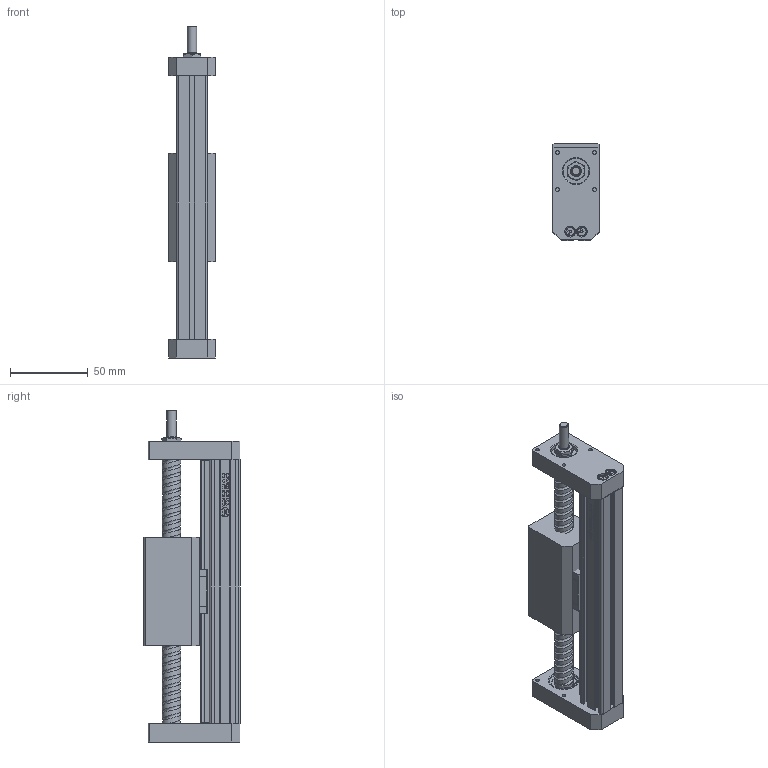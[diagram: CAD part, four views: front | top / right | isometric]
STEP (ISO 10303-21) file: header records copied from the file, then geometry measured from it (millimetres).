
FILE_DESCRIPTION (( 'STEP AP214' ), '1' );
FILE_NAME ('WMAB-020-0100 (3D).STEP', '2025-12-23T07:50:28', ( '' ), ( '' ), 'SwSTEP 2.0', 'SolidWorks 2023', '' );
FILE_SCHEMA (( 'AUTOMOTIVE_DESIGN' ));
Length unit declared in the file: millimetre
Products named in the file (3): Group2^WMAB-020-0100 (3D); WMAB-020-0100 (3D); Group1^WMAB-020-0100 (3D)
Assembly tree (2 placements, depth 2):
  WMAB-020-0100 (3D)
    Group1^WMAB-020-0100 (3D)
    Group2^WMAB-020-0100 (3D)
Bounding box: 30 x 62.5 x 214 mm (x, y, z)
Surface area: 829862.8 mm2
Topology: 308 solids, 407 shells, 13090 faces, 32219 edges, 21087 vertices
Faces by surface type: plane 7975, cylinder 3179, cone 814, bspline 594, torus 484, sphere 44
Full cylindrical faces by diameter (mm): 1.2 x22, 2 x44, 2.5 x176, 3 x374, 3.4 x88, 3.5 x99, 5.5 x286, 5.7 x44, 5.94 x11, 6 x110, 6.5 x44, 7 x99, 7.5 x22, 10 x22, 12 x396, 16.5 x22, 19 x22, 20 x22
Entity records: 702688 total; most frequent: CARTESIAN_POINT 277326, DIRECTION 56363, ORIENTED_EDGE 54692, EDGE_CURVE 27346, VERTEX_POINT 19261, AXIS2_PLACEMENT_3D 19156, VECTOR 18051, LINE 18051
